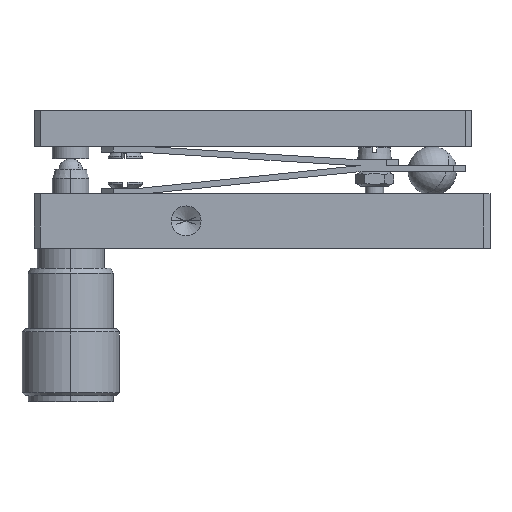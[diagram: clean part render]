
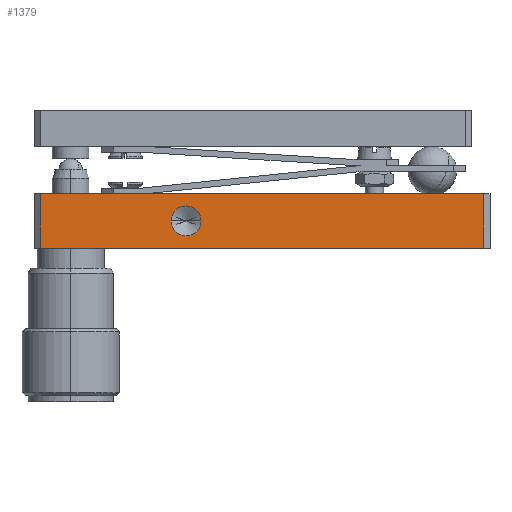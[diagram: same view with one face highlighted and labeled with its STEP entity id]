
A CAD part, left-side view. The second image highlights one B-rep face of the part: STEP entity #1379.
In plain terms, the highlighted planar face has unit normal (-1, 0, 0).
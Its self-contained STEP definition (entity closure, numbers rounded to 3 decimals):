
#651 = EDGE_CURVE ( 'NONE', #663, #661, #12681, .T. ) ;
#661 = VERTEX_POINT ( 'NONE', #12733 ) ;
#663 = VERTEX_POINT ( 'NONE', #12728 ) ;
#1355 = ORIENTED_EDGE ( 'NONE', *, *, #1428, .T. ) ;
#1358 = ORIENTED_EDGE ( 'NONE', *, *, #3734, .T. ) ;
#1359 = EDGE_LOOP ( 'NONE', ( #1358, #1355 ) ) ;
#1360 = ORIENTED_EDGE ( 'NONE', *, *, #1364, .T. ) ;
#1364 = EDGE_CURVE ( 'NONE', #1373, #663, #14095, .T. ) ;
#1368 = ORIENTED_EDGE ( 'NONE', *, *, #1369, .T. ) ;
#1369 = EDGE_CURVE ( 'NONE', #1388, #1373, #14086, .T. ) ;
#1372 = ORIENTED_EDGE ( 'NONE', *, *, #1390, .T. ) ;
#1373 = VERTEX_POINT ( 'NONE', #14081 ) ;
#1379 = ADVANCED_FACE ( 'NONE', ( #14079, #14078 ), #14077, .T. ) ;
#1380 = EDGE_LOOP ( 'NONE', ( #1381, #1372, #1368, #1360 ) ) ;
#1381 = ORIENTED_EDGE ( 'NONE', *, *, #651, .T. ) ;
#1388 = VERTEX_POINT ( 'NONE', #14116 ) ;
#1390 = EDGE_CURVE ( 'NONE', #661, #1388, #14115, .T. ) ;
#1428 = EDGE_CURVE ( 'NONE', #3656, #3735, #14229, .T. ) ;
#3656 = VERTEX_POINT ( 'NONE', #32225 ) ;
#3734 = EDGE_CURVE ( 'NONE', #3735, #3656, #32407, .T. ) ;
#3735 = VERTEX_POINT ( 'NONE', #32467 ) ;
#12678 = DIRECTION ( 'NONE',  ( 0., 1., 0. ) ) ;
#12679 = VECTOR ( 'NONE', #12678, 1000. ) ;
#12680 = CARTESIAN_POINT ( 'NONE',  ( 0., 0., 9. ) ) ;
#12681 = LINE ( 'NONE', #12680, #12679 ) ;
#12728 = CARTESIAN_POINT ( 'NONE',  ( 0., 1., 9. ) ) ;
#12733 = CARTESIAN_POINT ( 'NONE',  ( 0., 74., 9. ) ) ;
#14073 = DIRECTION ( 'NONE',  ( -1., 0., 0. ) ) ;
#14074 = CARTESIAN_POINT ( 'NONE',  ( 0., 0., 0. ) ) ;
#14075 = AXIS2_PLACEMENT_3D ( 'NONE', #14074, #14073, #14135 ) ;
#14077 = PLANE ( 'NONE',  #14075 ) ;
#14078 = FACE_BOUND ( 'NONE', #1359, .T. ) ;
#14079 = FACE_OUTER_BOUND ( 'NONE', #1380, .T. ) ;
#14081 = CARTESIAN_POINT ( 'NONE',  ( 0., 1., 0. ) ) ;
#14083 = DIRECTION ( 'NONE',  ( 0., -1., 0. ) ) ;
#14084 = VECTOR ( 'NONE', #14083, 1000. ) ;
#14085 = CARTESIAN_POINT ( 'NONE',  ( 0., 37.5, 0. ) ) ;
#14086 = LINE ( 'NONE', #14085, #14084 ) ;
#14092 = DIRECTION ( 'NONE',  ( 0., 0., 1. ) ) ;
#14093 = VECTOR ( 'NONE', #14092, 1000. ) ;
#14094 = CARTESIAN_POINT ( 'NONE',  ( 0., 1., 0. ) ) ;
#14095 = LINE ( 'NONE', #14094, #14093 ) ;
#14112 = DIRECTION ( 'NONE',  ( 0., 0., -1. ) ) ;
#14113 = VECTOR ( 'NONE', #14112, 1000. ) ;
#14114 = CARTESIAN_POINT ( 'NONE',  ( 0., 74., 0. ) ) ;
#14115 = LINE ( 'NONE', #14114, #14113 ) ;
#14116 = CARTESIAN_POINT ( 'NONE',  ( 0., 74., 0. ) ) ;
#14135 = DIRECTION ( 'NONE',  ( 0., -1., 0. ) ) ;
#14170 = CARTESIAN_POINT ( 'NONE',  ( 0., 50., 4.5 ) ) ;
#14226 = DIRECTION ( 'NONE',  ( 0., -1., 0. ) ) ;
#14227 = DIRECTION ( 'NONE',  ( 1., 0., 0. ) ) ;
#14228 = AXIS2_PLACEMENT_3D ( 'NONE', #14170, #14227, #14226 ) ;
#14229 = CIRCLE ( 'NONE', #14228, 2.459 ) ;
#32225 = CARTESIAN_POINT ( 'NONE',  ( 0., 52.459, 4.5 ) ) ;
#32405 = CARTESIAN_POINT ( 'NONE',  ( 0., 50., 4.5 ) ) ;
#32406 = AXIS2_PLACEMENT_3D ( 'NONE', #32405, #32469, #32468 ) ;
#32407 = CIRCLE ( 'NONE', #32406, 2.459 ) ;
#32467 = CARTESIAN_POINT ( 'NONE',  ( 0., 47.541, 4.5 ) ) ;
#32468 = DIRECTION ( 'NONE',  ( 0., -1., 0. ) ) ;
#32469 = DIRECTION ( 'NONE',  ( 1., 0., 0. ) ) ;
